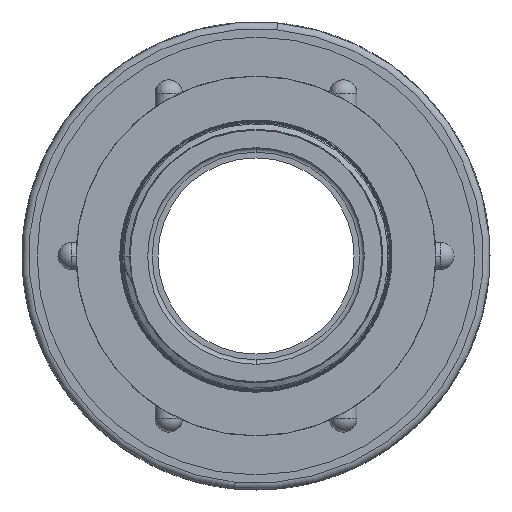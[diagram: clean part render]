
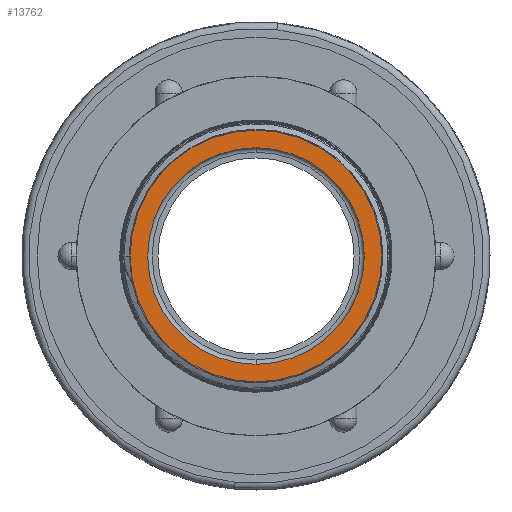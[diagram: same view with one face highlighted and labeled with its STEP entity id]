
A CAD part, left-side view. The second image highlights one B-rep face of the part: STEP entity #13762.
In plain terms, the highlighted planar face has unit normal (-1, 0, 0).
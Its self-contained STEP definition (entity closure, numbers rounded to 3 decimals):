
#1555 = CARTESIAN_POINT ( 'NONE',  ( 0., 23.75, 0. ) ) ;
#1559 = FACE_BOUND ( 'NONE', #25979, .T. ) ;
#1560 = FACE_OUTER_BOUND ( 'NONE', #25977, .T. ) ;
#1561 = PLANE ( 'NONE',  #32471 ) ;
#1563 = DIRECTION ( 'NONE',  ( 1., 0., 0. ) ) ;
#1564 = DIRECTION ( 'NONE',  ( 0., 0., -1. ) ) ;
#3288 = CARTESIAN_POINT ( 'NONE',  ( 0., 0., 0. ) ) ;
#3289 = DIRECTION ( 'NONE',  ( -1., 0., 0. ) ) ;
#3290 = DIRECTION ( 'NONE',  ( 0., 0., 1. ) ) ;
#7425 = CIRCLE ( 'NONE', #7430, 23.75 ) ;
#7430 = AXIS2_PLACEMENT_3D ( 'NONE', #31707, #31708, #31709 ) ;
#12502 = EDGE_CURVE ( 'NONE', #26782, #26783, #7425, .T. ) ;
#13762 = ADVANCED_FACE ( 'NONE', ( #1559, #1560 ), #1561, .F. ) ;
#14287 = EDGE_CURVE ( 'NONE', #26783, #26782, #32739, .T. ) ;
#17706 = CARTESIAN_POINT ( 'NONE',  ( 0., 0., 0. ) ) ;
#17707 = DIRECTION ( 'NONE',  ( -1., 0., 0. ) ) ;
#17708 = DIRECTION ( 'NONE',  ( 0., 0., 1. ) ) ;
#17949 = CARTESIAN_POINT ( 'NONE',  ( 0., 0., 0. ) ) ;
#17950 = DIRECTION ( 'NONE',  ( -1., 0., 0. ) ) ;
#17951 = DIRECTION ( 'NONE',  ( 0., 0., 1. ) ) ;
#19621 = CARTESIAN_POINT ( 'NONE',  ( 0., 0., 27.597 ) ) ;
#19795 = CARTESIAN_POINT ( 'NONE',  ( 0., 0., -27.597 ) ) ;
#19850 = CARTESIAN_POINT ( 'NONE',  ( 0., 0., 23.75 ) ) ;
#19851 = CARTESIAN_POINT ( 'NONE',  ( 0., 0., -23.75 ) ) ;
#22075 = EDGE_CURVE ( 'NONE', #26725, #26723, #33050, .T. ) ;
#22129 = EDGE_CURVE ( 'NONE', #26723, #26725, #33048, .T. ) ;
#22738 = ORIENTED_EDGE ( 'NONE', *, *, #12502, .F. ) ;
#22739 = ORIENTED_EDGE ( 'NONE', *, *, #14287, .F. ) ;
#22740 = ORIENTED_EDGE ( 'NONE', *, *, #22129, .T. ) ;
#22741 = ORIENTED_EDGE ( 'NONE', *, *, #22075, .T. ) ;
#25977 = EDGE_LOOP ( 'NONE', ( #22740, #22741 ) ) ;
#25979 = EDGE_LOOP ( 'NONE', ( #22738, #22739 ) ) ;
#26723 = VERTEX_POINT ( 'NONE', #19795 ) ;
#26725 = VERTEX_POINT ( 'NONE', #19621 ) ;
#26782 = VERTEX_POINT ( 'NONE', #19850 ) ;
#26783 = VERTEX_POINT ( 'NONE', #19851 ) ;
#31707 = CARTESIAN_POINT ( 'NONE',  ( 0., 0., 0. ) ) ;
#31708 = DIRECTION ( 'NONE',  ( -1., 0., 0. ) ) ;
#31709 = DIRECTION ( 'NONE',  ( 0., 0., 1. ) ) ;
#32471 = AXIS2_PLACEMENT_3D ( 'NONE', #1555, #1563, #1564 ) ;
#32739 = CIRCLE ( 'NONE', #32743, 23.75 ) ;
#32743 = AXIS2_PLACEMENT_3D ( 'NONE', #3288, #3289, #3290 ) ;
#33048 = CIRCLE ( 'NONE', #33056, 27.597 ) ;
#33049 = AXIS2_PLACEMENT_3D ( 'NONE', #17706, #17707, #17708 ) ;
#33050 = CIRCLE ( 'NONE', #33049, 27.597 ) ;
#33056 = AXIS2_PLACEMENT_3D ( 'NONE', #17949, #17950, #17951 ) ;
